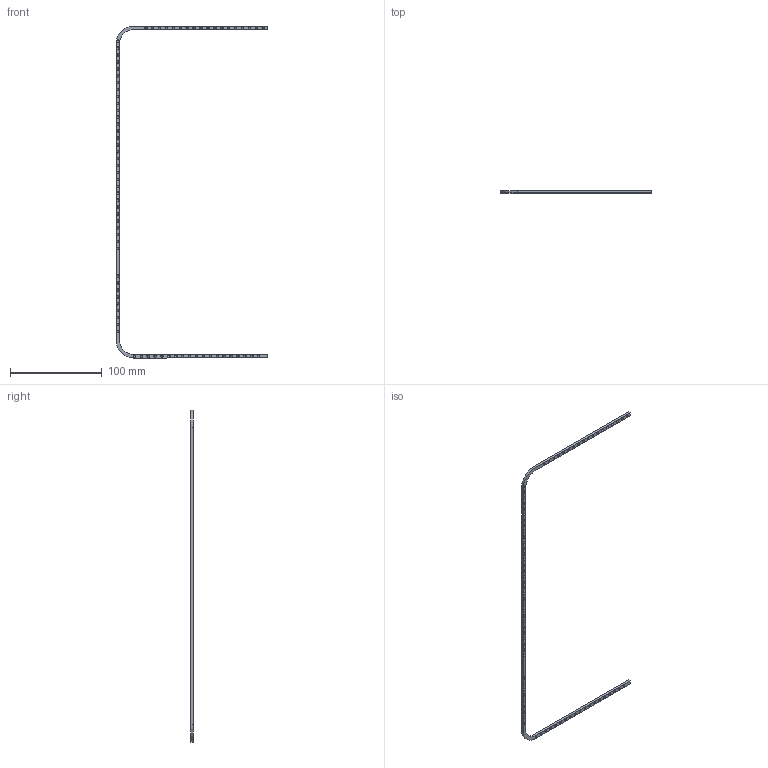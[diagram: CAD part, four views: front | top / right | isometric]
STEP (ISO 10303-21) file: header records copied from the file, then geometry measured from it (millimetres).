
FILE_DESCRIPTION(('STEP AP242 Edition 2','STEP AP242 Edition 2''CAx-IF Rec.Pracs.---Representation and Presentation of Product Manufacturing Information (PMI)---4.0---2014-10-13','STEP AP242 Edition 2''CAx-IF Rec.Pracs.---Representation and Presentation of Product Manufacturing Information (PMI)---4.0---2014-10-13''CAx-IF Rec.Pracs.---3D Tessellated Geometry---0.4---2014-09-14','STEP AP242 Edition 2''CAx-IF Rec.Pracs.---Representation and Presentation of Product Manufacturing Information (PMI)---4.0---2014-10-13''CAx-IF Rec.Pracs.---3D Tessellated Geometry---0.4---2014-09-14''2;1','STEP AP242 Edition 2''CAx-IF Rec.Pracs.---Representation and Presentation of Product Manufacturing Information (PMI)---4.0---2014-10-13''CAx-IF Rec.Pracs.---3D Tessellated Geometry---0.4---2014-09-14''2;1''CAx-IF Rec.Pracs.---User Defined Attributes---1.5---2016-08-15'),'2;1');
FILE_NAME('/vol/tmp/translate-5928582753522486027/Part Studio Body Front - Part Grill Left Frame 2 - Black or Chrome.step','2026-05-02T13:02:45',(''),(''),'ST-DEVELOPER v20','ONSHAPE BY PTC INC, 1.214',' ');
FILE_SCHEMA(('AP242_MANAGED_MODEL_BASED_3D_ENGINEERING_MIM_LF { 1 0 10303 442 3 1 4 }'));
Length unit declared in the file: metre
Products named in the file (1): Part Grill Left Frame 2 - Black or Chrome
Bounding box: 165.63 x 2.5 x 362.24 mm (x, y, z)
Volume: 6354.6 mm3; surface area: 9165 mm2
Topology: 1 solids, 1 shells, 168 faces, 344 edges, 255 vertices
Faces by surface type: plane 87, cone 77, cylinder 4
Entity records: 3530 total; most frequent: DIRECTION 690, CARTESIAN_POINT 537, ORIENTED_EDGE 380, AXIS2_PLACEMENT_3D 331, EDGE_LOOP 322, FACE_BOUND 322, EDGE_CURVE 190, VERTEX_POINT 178
